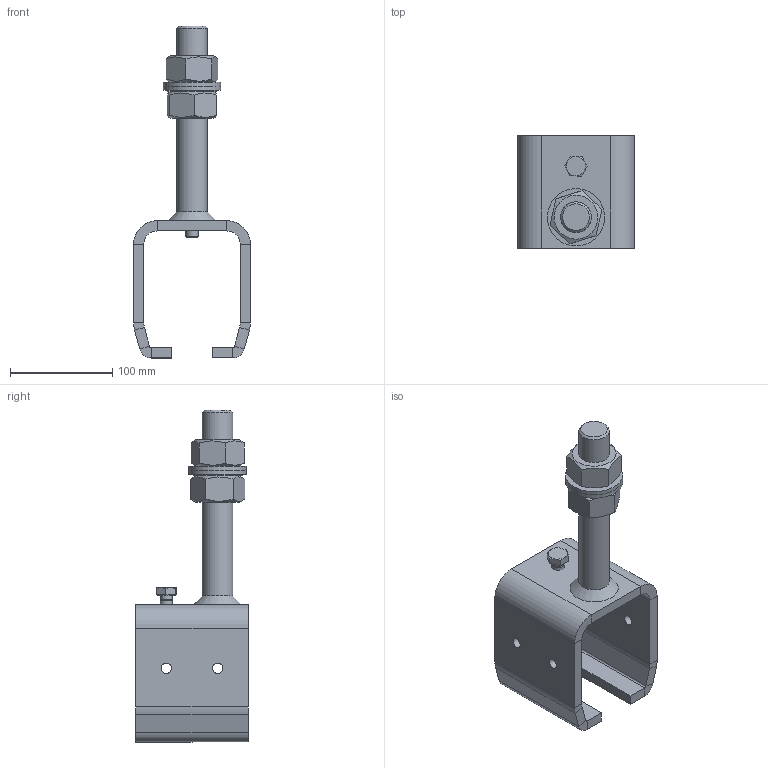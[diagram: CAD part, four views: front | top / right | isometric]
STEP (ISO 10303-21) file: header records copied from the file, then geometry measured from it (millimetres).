
FILE_DESCRIPTION(/* description */ ('Muffe H/S Nr.5'),/* implementation_level */ '2;1');
FILE_NAME(/* name */ 'Q:\sge-ma\Produktmanagement-STB\STB\Workspace\stp\010335550.stp',/* time_stamp */ '2015-07-09T13:22:25+02:00',/* author */ ('avschreier'),/* organization */ (''),/* preprocessor_version */ 'ST-DEVELOPER v15.6',/* originating_system */ 'Autodesk Inventor 2015',/* authorisation */ '');
FILE_SCHEMA (('CONFIG_CONTROL_DESIGN'));
Length unit declared in the file: millimetre
Products named in the file (8): 010335550_Schweißnähte; 337000125; 337000331; DIN_EN_ISO_4017-M12x25_en; DIN_6798-A_31_en; DIN_EN_ISO_4032-M30_en; DIN_EN_ISO_7090-31_en; 010335550
Bounding box: 114 x 110 x 324 mm (x, y, z)
Volume: 641255.1 mm3; surface area: 147761.3 mm2
Topology: 9 solids, 9 shells, 262 faces, 664 edges, 422 vertices
Faces by surface type: plane 126, cylinder 118, cone 18
Full cylindrical faces by diameter (mm): 10 x5, 10.106 x1, 11.053 x1, 12 x1, 17.2 x1, 26.211 x2, 30 x2, 31 x3, 56 x2
Entity records: 7536 total; most frequent: DIRECTION 1348, CARTESIAN_POINT 1310, ORIENTED_EDGE 1206, EDGE_CURVE 603, AXIS2_PLACEMENT_3D 507, VERTEX_POINT 397, LINE 334, VECTOR 334
